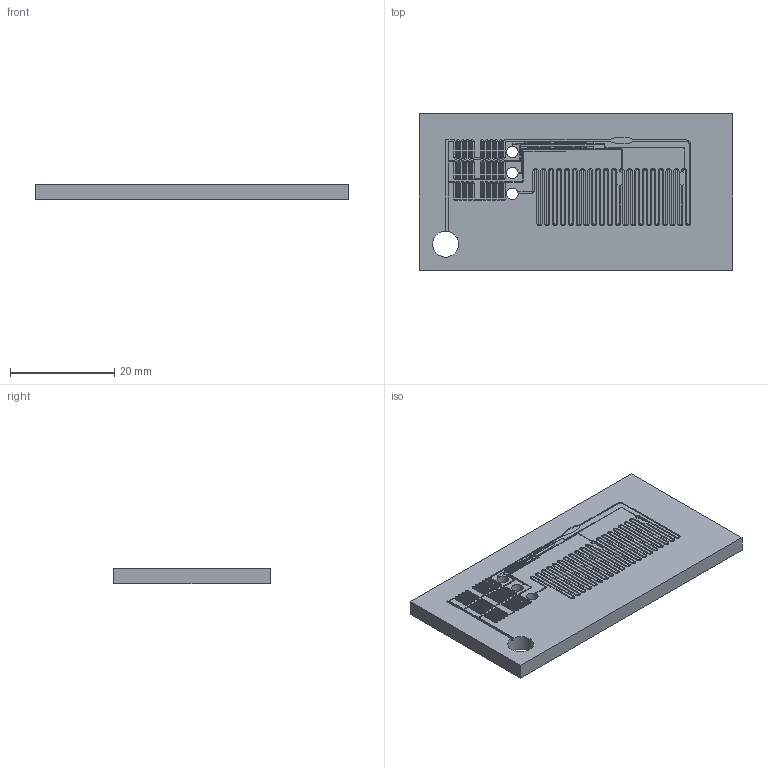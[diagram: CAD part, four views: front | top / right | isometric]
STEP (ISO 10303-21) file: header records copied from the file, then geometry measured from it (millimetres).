
FILE_DESCRIPTION(/* description */ (''),/* implementation_level */ '2;1');
FILE_NAME(/* name */ '//file.canterbury.ac.nz/user/J/jme174/Home/Documents/1) Reports, Presentations etc/1) Publications/Transistor valves 2019/Supplementary information/206 Sequential loading v80.step',/* time_stamp */ '2020-01-14T15:07:20+13:00',/* author */ (''),/* organization */ (''),/* preprocessor_version */ 'ST-DEVELOPER v18',/* originating_system */ 'Autodesk Translation Framework v8.12.0.6',/* authorisation */ '');
FILE_SCHEMA (('AUTOMOTIVE_DESIGN { 1 0 10303 214 3 1 1 }'));
Length unit declared in the file: millimetre
Products named in the file (1): 206 Sequential loading
Bounding box: 60 x 30 x 3 mm (x, y, z)
Volume: 5261.2 mm3; surface area: 4537.8 mm2
Topology: 1 solids, 1 shells, 781 faces, 2328 edges, 1546 vertices
Faces by surface type: plane 510, cylinder 271
Full cylindrical faces by diameter (mm): 2.2 x3, 5 x1
Entity records: 26252 total; most frequent: ORIENTED_EDGE 4656, CARTESIAN_POINT 4656, DIRECTION 4450, EDGE_CURVE 2328, LINE 1770, VECTOR 1770, VERTEX_POINT 1546, AXIS2_PLACEMENT_3D 1340
